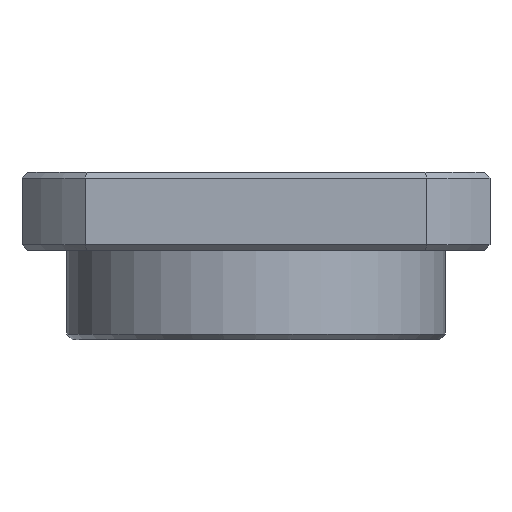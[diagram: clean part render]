
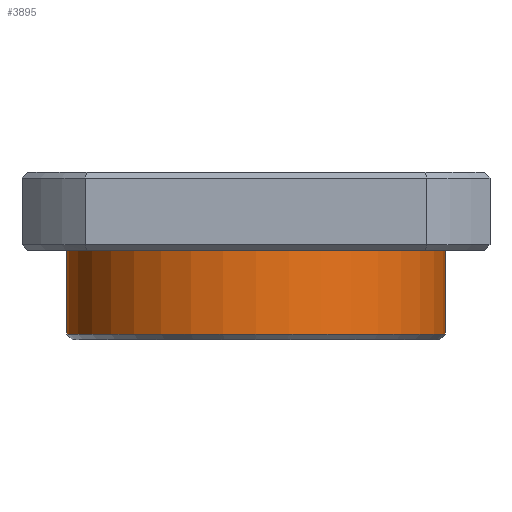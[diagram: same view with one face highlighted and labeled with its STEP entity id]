
A CAD part, front view. The second image highlights one B-rep face of the part: STEP entity #3895.
In plain terms, the highlighted cylindrical face has radius 17 mm (diameter 34 mm), a partial arc.
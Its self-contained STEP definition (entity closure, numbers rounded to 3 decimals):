
#415 = EDGE_CURVE ( 'NONE', #2909, #1952, #3461, .T. ) ;
#954 = EDGE_LOOP ( 'NONE', ( #5010, #3380, #3415, #3455 ) ) ;
#1045 = EDGE_CURVE ( 'NONE', #2909, #3048, #5553, .T. ) ;
#1165 = CARTESIAN_POINT ( 'NONE',  ( -17., 0., -7. ) ) ;
#1184 = AXIS2_PLACEMENT_3D ( 'NONE', #2998, #2991, #2982 ) ;
#1610 = DIRECTION ( 'NONE',  ( 0., 0., -1. ) ) ;
#1617 = VERTEX_POINT ( 'NONE', #3105 ) ;
#1831 = EDGE_CURVE ( 'NONE', #1952, #1617, #3573, .T. ) ;
#1952 = VERTEX_POINT ( 'NONE', #1165 ) ;
#1989 = DIRECTION ( 'NONE',  ( 0., 0., -1. ) ) ;
#2017 = CARTESIAN_POINT ( 'NONE',  ( -17., 0., -34.404 ) ) ;
#2258 = CARTESIAN_POINT ( 'NONE',  ( 17., 0., -7. ) ) ;
#2751 = AXIS2_PLACEMENT_3D ( 'NONE', #2981, #2999, #3006 ) ;
#2909 = VERTEX_POINT ( 'NONE', #2258 ) ;
#2981 = CARTESIAN_POINT ( 'NONE',  ( 0., 0., -14.5 ) ) ;
#2982 = DIRECTION ( 'NONE',  ( -1., 0., 0. ) ) ;
#2991 = DIRECTION ( 'NONE',  ( 0., 0., -1. ) ) ;
#2998 = CARTESIAN_POINT ( 'NONE',  ( 0., 0., -7. ) ) ;
#2999 = DIRECTION ( 'NONE',  ( 0., 0., 1. ) ) ;
#3006 = DIRECTION ( 'NONE',  ( -1., 0., 0. ) ) ;
#3048 = VERTEX_POINT ( 'NONE', #3398 ) ;
#3105 = CARTESIAN_POINT ( 'NONE',  ( -17., 0., -14.5 ) ) ;
#3307 = EDGE_CURVE ( 'NONE', #1617, #3048, #4583, .T. ) ;
#3380 = ORIENTED_EDGE ( 'NONE', *, *, #415, .T. ) ;
#3398 = CARTESIAN_POINT ( 'NONE',  ( 17., 0., -14.5 ) ) ;
#3415 = ORIENTED_EDGE ( 'NONE', *, *, #1831, .T. ) ;
#3445 = CYLINDRICAL_SURFACE ( 'NONE', #3505, 17. ) ;
#3455 = ORIENTED_EDGE ( 'NONE', *, *, #3307, .T. ) ;
#3461 = CIRCLE ( 'NONE', #1184, 17. ) ;
#3502 = FACE_OUTER_BOUND ( 'NONE', #954, .T. ) ;
#3505 = AXIS2_PLACEMENT_3D ( 'NONE', #5550, #5074, #4657 ) ;
#3572 = VECTOR ( 'NONE', #1989, 1000. ) ;
#3573 = LINE ( 'NONE', #2017, #3572 ) ;
#3895 = ADVANCED_FACE ( 'NONE', ( #3502 ), #3445, .T. ) ;
#4583 = CIRCLE ( 'NONE', #2751, 17. ) ;
#4657 = DIRECTION ( 'NONE',  ( -1., 0., 0. ) ) ;
#5010 = ORIENTED_EDGE ( 'NONE', *, *, #1045, .F. ) ;
#5074 = DIRECTION ( 'NONE',  ( 0., 0., -1. ) ) ;
#5322 = CARTESIAN_POINT ( 'NONE',  ( 17., 0., -34.404 ) ) ;
#5550 = CARTESIAN_POINT ( 'NONE',  ( 0., 0., -34.404 ) ) ;
#5553 = LINE ( 'NONE', #5322, #5853 ) ;
#5853 = VECTOR ( 'NONE', #1610, 1000. ) ;
